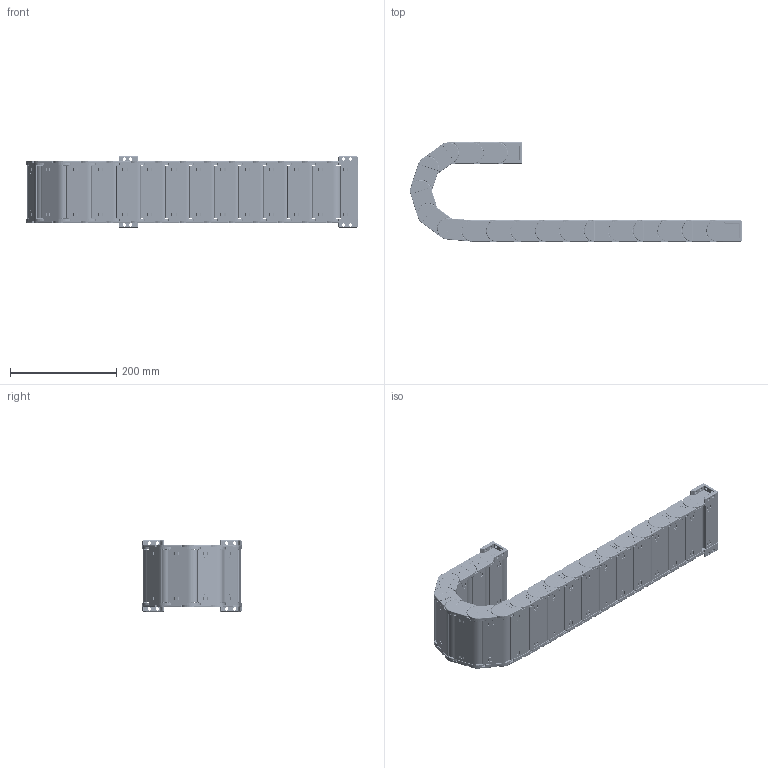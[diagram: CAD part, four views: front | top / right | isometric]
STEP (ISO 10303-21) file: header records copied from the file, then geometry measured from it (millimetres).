
FILE_DESCRIPTION (( 'STEP AP203' ), '1' );
FILE_NAME ('J25F.1.100S猾敕宒--俋耜羲.STEP', '2017-12-16T03:21:00', ( '' ), ( '' ), 'SwSTEP 2.0', 'SolidWorks 2016', '' );
FILE_SCHEMA (( 'CONFIG_CONTROL_DESIGN' ));
Length unit declared in the file: millimetre
Products named in the file (10): N25X75-俋諉芛 - 萵掛; 25-崝Ч翋极1; 25-崝Ч翋极2; N25-囀猾敕え; N25-俋猾敕え.2; N25X57-增强3D-1 - 副本; 25-崝Ч源諉芛囀; J25F.1.100S猾敕宒--俋耜羲; N25X75-囀諉芛 - 萵掛; 25-崝Ч源諉芛俋
Assembly tree (31 placements, depth 3):
  J25F.1.100S猾敕宒--俋耜羲
    N25X57-增强3D-1 - 副本  x17
      25-崝Ч翋极1
      25-崝Ч翋极2
      N25-囀猾敕え
      N25-俋猾敕え.2
    N25X75-囀諉芛 - 萵掛
      25-崝Ч源諉芛囀  x2
      N25-囀猾敕え  x2
    N25X75-俋諉芛 - 萵掛
      25-崝Ч源諉芛俋  x2
      N25-囀猾敕え  x2
Bounding box: 623.94 x 186.39 x 134 mm (x, y, z)
Volume: 1093696.4 mm3; surface area: 879061.4 mm2
Topology: 76 solids, 76 shells, 19781 faces, 53747 edges, 34150 vertices
Faces by surface type: plane 8811, cylinder 5690, bspline 3842, torus 1360, sphere 78
Entity records: 49575 total; most frequent: CARTESIAN_POINT 17331, ORIENTED_EDGE 6766, DIRECTION 5911, EDGE_CURVE 3383, VERTEX_POINT 2166, AXIS2_PLACEMENT_3D 1973, LINE 1965, VECTOR 1965
